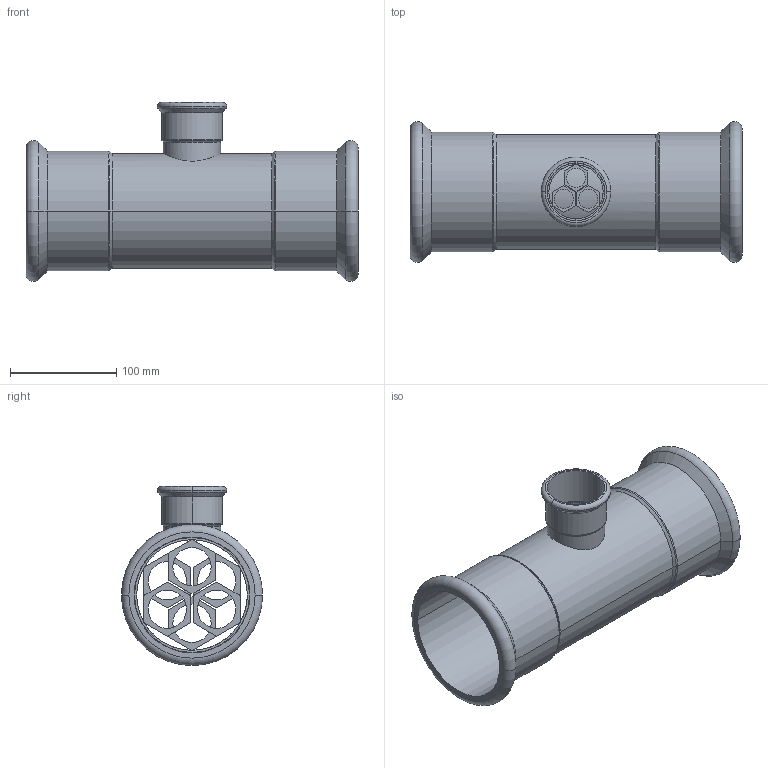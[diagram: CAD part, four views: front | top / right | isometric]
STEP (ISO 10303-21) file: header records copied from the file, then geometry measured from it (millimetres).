
FILE_DESCRIPTION(('OneSpaceDesigner STEP Export'),'2;1');
FILE_NAME('R2715 108x54x108.stp','2010-06-10T 9:44:03',(''),(''),'OneSpace Designer STEP processor for AP214 (Solid Model)','OneSpace Modeling 15.00A 14-Mar-2007 (C) CoCreate Software GmbH','');
FILE_SCHEMA(('AUTOMOTIVE_DESIGN { 1 0 10303 214 1 1 1 1 }'));
Length unit declared in the file: millimetre
Products named in the file (2): R2715_108x54x108
Assembly tree (1 placements, depth 2):
  R2715_108x54x108
    R2715_108x54x108
Bounding box: 312 x 132.58 x 168.29 mm (x, y, z)
Volume: 355818.2 mm3; surface area: 261843.1 mm2
Topology: 1 solids, 1 shells, 170 faces, 424 edges, 273 vertices
Faces by surface type: plane 90, cylinder 54, torus 14, cone 12
Entity records: 5728 total; most frequent: CARTESIAN_POINT 1999, ORIENTED_EDGE 848, DIRECTION 643, EDGE_CURVE 424, VERTEX_POINT 273, VECTOR 263, LINE 263, EDGE_LOOP 207
